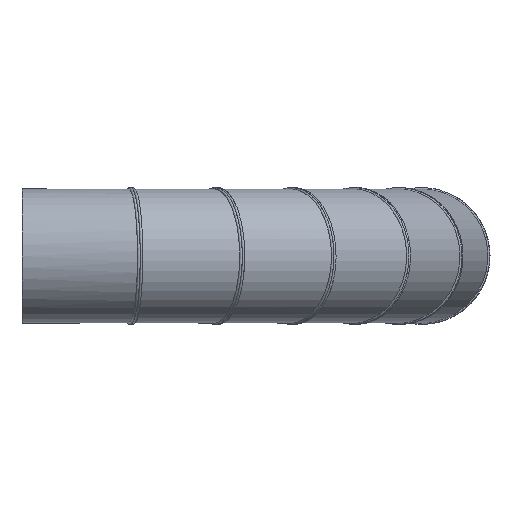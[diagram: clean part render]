
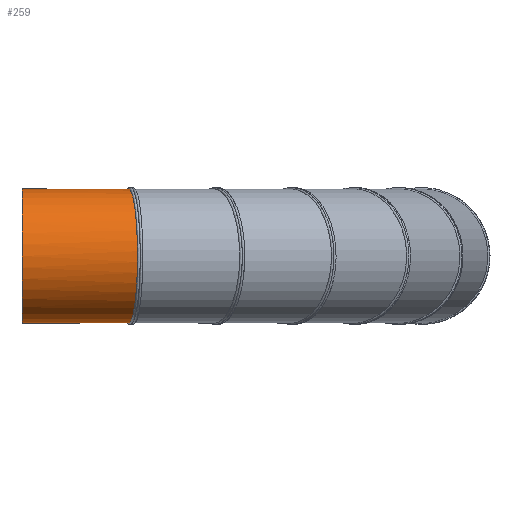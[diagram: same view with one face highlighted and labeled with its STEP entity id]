
A CAD part, front view. The second image highlights one B-rep face of the part: STEP entity #259.
In plain terms, the highlighted cylindrical face has radius 200 mm (diameter 400 mm), a full revolution.
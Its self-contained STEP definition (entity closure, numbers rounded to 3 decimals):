
#18=CIRCLE('',#310,200.);
#113=ORIENTED_EDGE('',*,*,#149,.T.);
#114=ORIENTED_EDGE('',*,*,#142,.F.);
#142=EDGE_CURVE('',#164,#164,#18,.T.);
#149=EDGE_CURVE('',#171,#171,#178,.T.);
#164=VERTEX_POINT('',#1726);
#171=VERTEX_POINT('',#1828);
#178=B_SPLINE_CURVE_WITH_KNOTS('',3,(#1741,#1742,#1743,#1744,#1745,#1746,
#1747,#1748,#1749,#1750,#1751,#1752,#1753,#1754,#1755,#1756,#1757,#1758,
#1759,#1760,#1761,#1762,#1763,#1764,#1765,#1766,#1767,#1768,#1769,#1770,
#1771,#1772,#1773,#1774,#1775,#1776,#1777,#1778,#1779,#1780,#1781,#1782,
#1783,#1784,#1785,#1786,#1787,#1788,#1789,#1790,#1791,#1792,#1793,#1794,
#1795,#1796,#1797,#1798,#1799,#1800,#1801,#1802,#1803,#1804,#1805,#1806,
#1807,#1808,#1809,#1810,#1811,#1812,#1813,#1814,#1815,#1816,#1817,#1818,
#1819,#1820,#1821,#1822,#1823,#1824,#1825,#1826,#1827),.UNSPECIFIED.,.T.,
 .F.,(1,1,1,1,1,1,1,1,1,1,1,1,1,1,1,1,1,1,1,1,1,1,1,1,1,1,1,1,1,1,1,1,1,
1,1,1,1,1,1,1,1,1,1,1,1,1,1,1,1,1,1,1,1,1,1,1,1,1,1,1,1,1,1,1,1,1,1,1,1,
1,1,1,1,1,1,1,1,1,1,1,1,1,1,1,1,1,1,1,1,1,1),(-0.059,-0.04,
-0.02,0.,0.02,0.03,
0.04,0.05,0.059,0.079,
0.099,0.109,0.119,0.129,
0.139,0.149,0.158,0.178,
0.198,0.218,0.238,0.257,
0.267,0.277,0.297,0.317,
0.337,0.347,0.357,0.366,
0.376,0.396,0.416,0.436,
0.446,0.456,0.475,0.495,
0.505,0.515,0.535,0.555,
0.574,0.584,0.594,0.604,
0.614,0.634,0.654,0.673,
0.693,0.703,0.713,0.733,
0.753,0.772,0.782,0.792,
0.812,0.832,0.852,0.871,
0.891,0.901,0.911,0.921,
0.931,0.951,0.97,0.99,
1.01,1.02,1.03,1.04,1.05,
1.07,1.089,1.109,1.129,1.139,
1.149,1.159,1.169,1.188,1.208,
1.228,1.248,1.268,1.287,1.297,
1.307),.UNSPECIFIED.);
#201=EDGE_LOOP('',(#113));
#202=EDGE_LOOP('',(#114));
#229=FACE_BOUND('',#201,.T.);
#230=FACE_BOUND('',#202,.T.);
#243=CYLINDRICAL_SURFACE('',#318,200.);
#259=ADVANCED_FACE('',(#229,#230),#243,.T.);
#310=AXIS2_PLACEMENT_3D('',#1725,#370,#371);
#318=AXIS2_PLACEMENT_3D('',#1740,#386,#387);
#370=DIRECTION('',(0.,1.,0.));
#371=DIRECTION('',(-1.,0.,0.));
#386=DIRECTION('',(0.,1.,0.));
#387=DIRECTION('',(-1.,0.,0.));
#1725=CARTESIAN_POINT('',(997.554,195.,0.));
#1726=CARTESIAN_POINT('',(797.554,195.,0.));
#1740=CARTESIAN_POINT('',(997.554,-157.661,0.));
#1741=CARTESIAN_POINT('',(798.207,-97.051,-19.772));
#1742=CARTESIAN_POINT('',(797.227,-96.922,-0.009));
#1743=CARTESIAN_POINT('',(798.046,-97.03,16.504));
#1744=CARTESIAN_POINT('',(799.668,-97.243,29.558));
#1745=CARTESIAN_POINT('',(801.371,-97.467,39.305));
#1746=CARTESIAN_POINT('',(803.552,-97.753,48.944));
#1747=CARTESIAN_POINT('',(807.061,-98.214,61.536));
#1748=CARTESIAN_POINT('',(812.568,-98.937,76.855));
#1749=CARTESIAN_POINT('',(819.546,-99.854,91.589));
#1750=CARTESIAN_POINT('',(826.05,-100.708,103.049));
#1751=CARTESIAN_POINT('',(831.335,-101.402,111.371));
#1752=CARTESIAN_POINT('',(837.012,-102.148,119.409));
#1753=CARTESIAN_POINT('',(843.089,-102.946,127.174));
#1754=CARTESIAN_POINT('',(849.544,-103.795,134.63));
#1755=CARTESIAN_POINT('',(858.594,-104.984,144.102));
#1756=CARTESIAN_POINT('',(870.802,-106.588,155.122));
#1757=CARTESIAN_POINT('',(886.599,-108.664,166.788));
#1758=CARTESIAN_POINT('',(903.52,-110.889,176.876));
#1759=CARTESIAN_POINT('',(921.087,-113.199,185.142));
#1760=CARTESIAN_POINT('',(936.319,-115.203,190.588));
#1761=CARTESIAN_POINT('',(948.847,-116.851,194.061));
#1762=CARTESIAN_POINT('',(961.633,-118.533,196.938));
#1763=CARTESIAN_POINT('',(977.761,-120.656,199.34));
#1764=CARTESIAN_POINT('',(997.399,-123.241,200.32));
#1765=CARTESIAN_POINT('',(1013.685,-125.385,199.536));
#1766=CARTESIAN_POINT('',(1026.689,-127.098,197.948));
#1767=CARTESIAN_POINT('',(1036.336,-128.369,196.285));
#1768=CARTESIAN_POINT('',(1045.89,-129.627,194.154));
#1769=CARTESIAN_POINT('',(1058.522,-131.291,190.677));
#1770=CARTESIAN_POINT('',(1073.904,-133.318,185.201));
#1771=CARTESIAN_POINT('',(1091.716,-135.666,176.811));
#1772=CARTESIAN_POINT('',(1105.743,-137.515,168.436));
#1773=CARTESIAN_POINT('',(1116.498,-138.933,160.887));
#1774=CARTESIAN_POINT('',(1126.798,-140.291,152.873));
#1775=CARTESIAN_POINT('',(1138.835,-141.879,142.006));
#1776=CARTESIAN_POINT('',(1149.769,-143.321,130.018));
#1777=CARTESIAN_POINT('',(1157.842,-144.386,119.75));
#1778=CARTESIAN_POINT('',(1165.466,-145.392,109.002));
#1779=CARTESIAN_POINT('',(1173.943,-146.51,94.956));
#1780=CARTESIAN_POINT('',(1182.457,-147.634,77.079));
#1781=CARTESIAN_POINT('',(1188.026,-148.369,61.616));
#1782=CARTESIAN_POINT('',(1191.569,-148.836,48.897));
#1783=CARTESIAN_POINT('',(1193.743,-149.123,39.273));
#1784=CARTESIAN_POINT('',(1195.442,-149.348,29.551));
#1785=CARTESIAN_POINT('',(1197.068,-149.562,16.439));
#1786=CARTESIAN_POINT('',(1197.881,-149.67,0.014));
#1787=CARTESIAN_POINT('',(1196.896,-149.539,-19.804));
#1788=CARTESIAN_POINT('',(1194.008,-149.159,-39.146));
#1789=CARTESIAN_POINT('',(1190.054,-148.636,-54.938));
#1790=CARTESIAN_POINT('',(1185.958,-148.096,-67.354));
#1791=CARTESIAN_POINT('',(1181.212,-147.47,-79.66));
#1792=CARTESIAN_POINT('',(1174.183,-146.542,-94.51));
#1793=CARTESIAN_POINT('',(1163.999,-145.198,-111.471));
#1794=CARTESIAN_POINT('',(1154.216,-143.907,-124.63));
#1795=CARTESIAN_POINT('',(1145.604,-142.771,-134.587));
#1796=CARTESIAN_POINT('',(1136.553,-141.578,-144.065));
#1797=CARTESIAN_POINT('',(1124.359,-139.969,-155.079));
#1798=CARTESIAN_POINT('',(1108.56,-137.886,-166.754));
#1799=CARTESIAN_POINT('',(1091.629,-135.654,-176.855));
#1800=CARTESIAN_POINT('',(1074.031,-133.335,-185.139));
#1801=CARTESIAN_POINT('',(1058.81,-131.329,-190.581));
#1802=CARTESIAN_POINT('',(1046.306,-129.682,-194.049));
#1803=CARTESIAN_POINT('',(1036.743,-128.422,-196.205));
#1804=CARTESIAN_POINT('',(1027.074,-127.149,-197.89));
#1805=CARTESIAN_POINT('',(1014.133,-125.444,-199.499));
#1806=CARTESIAN_POINT('',(997.77,-123.29,-200.32));
#1807=CARTESIAN_POINT('',(978.218,-120.716,-199.385));
#1808=CARTESIAN_POINT('',(958.768,-118.156,-196.53));
#1809=CARTESIAN_POINT('',(942.929,-116.072,-192.59));
#1810=CARTESIAN_POINT('',(930.478,-114.435,-188.502));
#1811=CARTESIAN_POINT('',(921.333,-113.232,-184.993));
#1812=CARTESIAN_POINT('',(912.364,-112.052,-181.039));
#1813=CARTESIAN_POINT('',(900.632,-110.51,-175.161));
#1814=CARTESIAN_POINT('',(886.601,-108.665,-166.789));
#1815=CARTESIAN_POINT('',(870.731,-106.579,-155.062));
#1816=CARTESIAN_POINT('',(856.28,-104.68,-142.012));
#1817=CARTESIAN_POINT('',(845.35,-103.243,-130.03));
#1818=CARTESIAN_POINT('',(837.293,-102.185,-119.785));
#1819=CARTESIAN_POINT('',(831.585,-101.435,-111.745));
#1820=CARTESIAN_POINT('',(826.277,-100.738,-103.423));
#1821=CARTESIAN_POINT('',(819.77,-99.883,-92.025));
#1822=CARTESIAN_POINT('',(812.672,-98.951,-77.129));
#1823=CARTESIAN_POINT('',(805.983,-98.072,-58.57));
#1824=CARTESIAN_POINT('',(801.132,-97.435,-39.362));
#1825=CARTESIAN_POINT('',(798.207,-97.051,-19.772));
#1826=CARTESIAN_POINT('',(797.227,-96.922,-0.009));
#1827=CARTESIAN_POINT('',(798.046,-97.03,16.504));
#1828=CARTESIAN_POINT('',(797.554,-96.965,0.));
